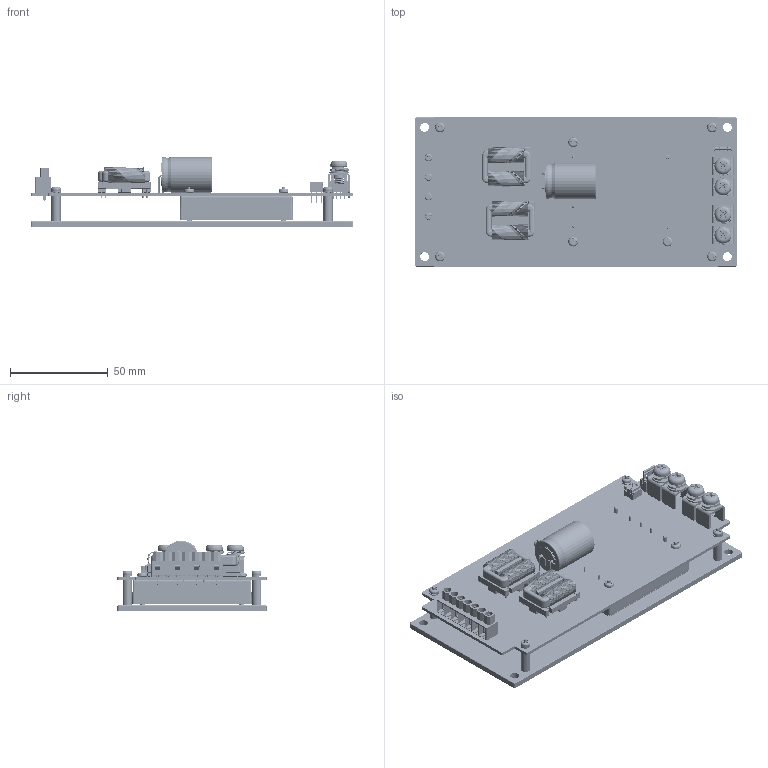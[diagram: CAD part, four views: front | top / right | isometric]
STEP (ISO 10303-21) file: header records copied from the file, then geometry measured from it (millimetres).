
FILE_DESCRIPTION (( 'STEP AP203' ), '1' );
FILE_NAME ('CHB300-300S CMFC 5V 2024.04.17.STEP', '2024-04-26T09:09:37', ( '' ), ( '' ), 'SwSTEP 2.0', 'SolidWorks 2020', '' );
FILE_SCHEMA (( 'CONFIG_CONTROL_DESIGN' ));
Products named in the file (1): CHB300-300S CMFC 5V 2024.04.17
Bounding box: 165 x 76.2 x 36 mm (x, y, z)
Volume: 119372.8 mm3; surface area: 91778.4 mm2
Topology: 9 solids, 35 shells, 2555 faces, 9094 edges, 5956 vertices
Faces by surface type: plane 1570, cylinder 612, bspline 164, cone 99, torus 71, sphere 39
Full cylindrical faces by diameter (mm): 0.7 x16, 0.78 x2, 0.8 x4, 1 x13, 1.2 x5, 1.5 x2, 2 x5, 2.2 x8, 2.9 x8, 3 x7, 3.2 x6, 3.239 x3, 3.25 x1, 3.264 x1, 3.8 x4, 3.9 x7, 4 x5, 4.2 x4, 4.3 x4, 4.45 x4, 4.5 x4, 4.6 x4, 4.7 x8, 5 x12, 5.3 x4, 5.5 x4, 10 x4, 12 x1, 12.8 x1, 13 x1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
Entity records: 198592 total; most frequent: CARTESIAN_POINT 127812, ORIENTED_EDGE 17238, DIRECTION 11665, EDGE_CURVE 8619, VERTEX_POINT 5793, VECTOR 4169, LINE 4169, AXIS2_PLACEMENT_3D 3748
